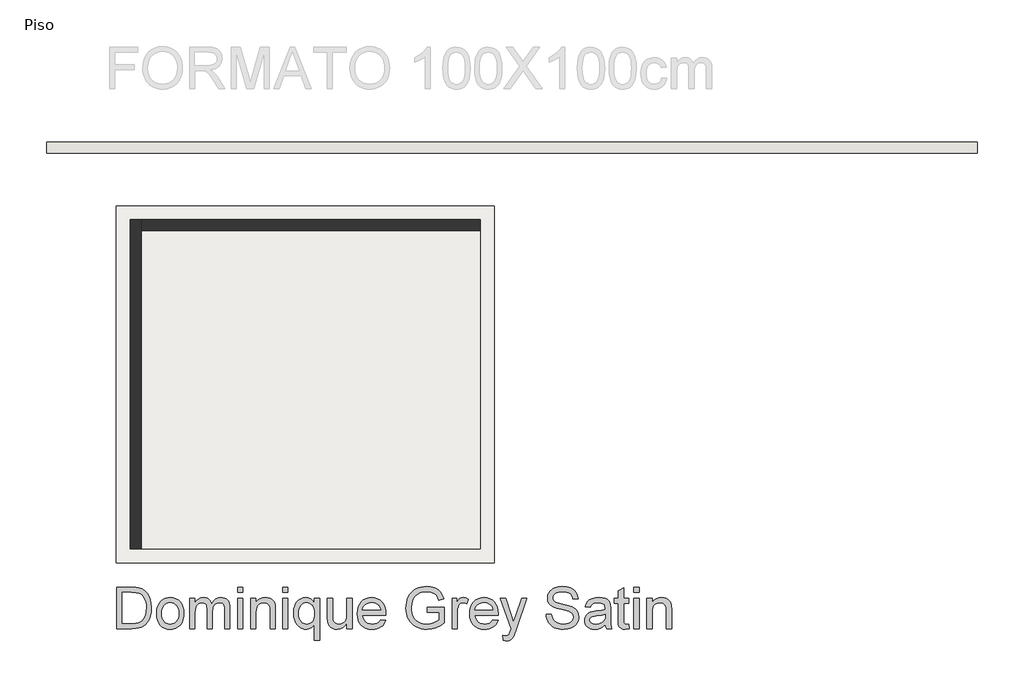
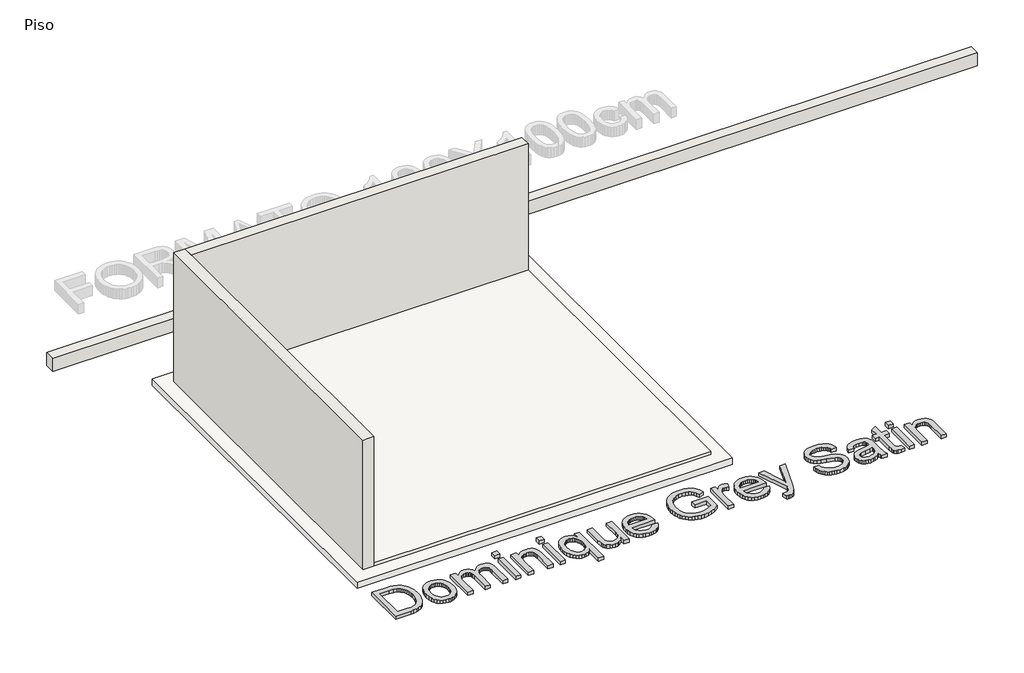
# One storey, part 1 of 2: 3 walls, 2 slabs, 1 proxy.
"""IFC4 building model written with IfcOpenShell, lengths in millimetres."""

from ifc_helpers import new_model, si_unit, frame, origin, origin_with_axes, place, context, project, spatial, polyline, outline, extrude, faceted_brep, element, save

model = new_model("IFC4")

# Units and contexts
model_context = context("Model", 3, world=origin())
ifc_project = project(units=[si_unit("LENGTHUNIT", "METRE", prefix="MILLI")], contexts=[model_context])

# Site, building, storey
site = spatial("IfcSite", under=ifc_project)
building = spatial("IfcBuilding", under=site)
storey = spatial("IfcBuildingStorey", under=building, Name="Piso", Elevation=0.0)

# Proxy
placement = place(None, origin())
element("IfcBuildingElementProxy", 1, Name="600mm Arial", ObjectType="600mm Arial", at=placement, inside=storey, context=model_context, shape_type="SweptSolid", body=[
    extrude(outline(polyline([(92707.9741213, -5134.2532893), (92707.9741213, -4531.5154284), (92915.901025, -4531.5154284), (92978.036294, -4533.6859322), (93023.4697204, -4540.1974435), (93071.5151089, -4556.9360743), (93112.0557048, -4583.3132134), (93134.395339, -4604.8710983), (93153.7367349, -4629.2248864), (93170.0798925, -4656.3745776), (93183.4248119, -4686.320172), (93193.7898871, -4718.7857581), (93201.1935122, -4753.4954243), (93207.1164124, -4829.6469973), (93203.1064986, -4894.3390462), (93191.0767574, -4951.2687849), (93172.756234, -4999.7372378), (93149.8739739, -5039.045429), (93123.533623, -5070.0762753), (93094.8388274, -5093.7126935), (93061.8949948, -5111.2422705), (93022.8075328, -5123.9525935), (92977.5028651, -5131.6781154), (92925.9074152, -5134.2532893), (92707.9741213, -5134.2532893)]), holes=[polyline([(92783.3163539, -5058.9110567), (92916.636789, -5058.9110567), (92971.7823, -5056.18873), (93013.6104829, -5048.0217497), (93045.1747581, -5034.8883624), (93069.5285462, -5017.2668149), (93095.7033501, -4984.654076), (93115.3666428, -4942.439617), (93127.6722955, -4890.439497), (93131.7741797, -4828.4697749), (93129.7646243, -4784.7286057), (93123.7359581, -4746.3585136), (93113.6881812, -4713.3594987), (93099.6212934, -4685.7315608), (93082.675729, -4662.8493007), (93063.9919221, -4644.087319), (93043.5698729, -4629.4456156), (93021.4095812, -4618.9241905), (92978.0730822, -4609.8742934), (92914.5766498, -4606.857661), (92783.3163539, -4606.857661), (92783.3163539, -5058.9110567)])]), origin_with_axes(), (0.0, 0.0, 1.0), 50.0),
    extrude(outline(polyline([(93282.458645, -4912.935481), (93286.5329381, -4855.6102691), (93298.7558174, -4806.2129142), (93319.1272828, -4764.7434163), (93347.6473345, -4731.2017754), (93376.3605242, -4709.7634521), (93408.0535581, -4694.4503641), (93442.7264362, -4685.2625113), (93480.3791584, -4682.1998937), (93521.9452253, -4685.9292974), (93559.5289696, -4697.1175086), (93593.1303914, -4715.7645272), (93622.7494905, -4741.8703533), (93646.9239361, -4774.55207), (93664.1913973, -4812.9267606), (93674.551874, -4856.9944251), (93678.0053662, -4906.7550635), (93676.4786559, -4947.0841272), (93671.8985251, -4982.8698483), (93664.2649737, -5014.1122268), (93653.5780017, -5040.8112626), (93639.9709664, -5063.8728651), (93623.577225, -5084.2029439), (93604.3967775, -5101.8014988), (93582.4296238, -5116.66853), (93558.5310897, -5128.4821405), (93533.5565008, -5136.9204338), (93507.505857, -5141.9834098), (93480.3791584, -5143.6710684), (93438.2060861, -5139.9554603), (93400.2728539, -5128.8086358), (93366.5794617, -5110.230595), (93337.1259094, -5084.221338), (93313.2089812, -5051.222323), (93296.1254611, -5011.6750085), (93285.875349, -4965.5793945), (93282.458645, -4912.935481)]), holes=[polyline([(93357.8008776, -4912.7883282), (93359.9805784, -4949.3328059), (93366.5196809, -4980.975256), (93377.418185, -5007.7156786), (93392.6760907, -5029.5540735), (93411.2357374, -5046.518032), (93432.0394642, -5058.6351452), (93455.0872712, -5065.9054132), (93480.3791584, -5068.3288358), (93505.5422868, -5065.8916176), (93528.4981233, -5058.5799629), (93549.2466679, -5046.3938718), (93567.7879204, -5029.3333443), (93583.0458262, -5007.2788187), (93593.9443303, -4980.1107334), (93600.4834327, -4947.8290883), (93602.6631336, -4910.4338835), (93600.4696372, -4875.0482341), (93593.889148, -4844.2335184), (93582.921666, -4817.9897366), (93567.5671912, -4796.3168886), (93548.9569608, -4779.3529301), (93528.2222118, -4767.2358168), (93505.3629444, -4759.9655489), (93480.3791584, -4757.5421263), (93455.0872712, -4759.9563519), (93432.0394642, -4767.1990286), (93411.2357374, -4779.2701566), (93392.6760907, -4796.1697358), (93377.418185, -4817.9437514), (93366.5196809, -4844.6381886), (93359.9805784, -4876.2530476), (93357.8008776, -4912.7883282)])]), origin_with_axes(), (0.0, 0.0, 1.0), 50.0),
    extrude(outline(polyline([(93762.7653779, -5134.2532893), (93762.7653779, -4691.6176727), (93838.1076105, -4691.6176727), (93838.1076105, -4764.4583078), (93860.7691414, -4730.9994403), (93889.9053954, -4704.7878482), (93924.5230911, -4687.8468823), (93963.6289472, -4682.1998937), (94005.5307065, -4687.9572469), (94023.3637862, -4695.1539384), (94039.1183326, -4705.2293066), (94064.2078847, -4732.8756385), (94080.6154217, -4769.7558085), (94108.0778126, -4731.4500958), (94139.4029645, -4704.0888724), (94174.5908774, -4687.6721383), (94213.6415512, -4682.1998937), (94243.8032762, -4684.4761635), (94270.2769843, -4691.304973), (94293.0626754, -4702.6863223), (94312.1603495, -4718.6202112), (94327.2573068, -4739.2905808), (94338.0408478, -4764.8813721), (94344.5109724, -4795.3925851), (94346.6676806, -4830.8242197), (94346.6676806, -5134.2532893), (94271.325448, -5134.2532893), (94271.325448, -4863.1978353), (94269.5780085, -4825.6186895), (94264.3356901, -4800.2900141), (94254.5132408, -4782.944378), (94239.0254088, -4769.3143501), (94219.1045988, -4760.4851822), (94195.9832154, -4757.5421263), (94174.6322641, -4759.4275215), (94155.166708, -4765.0837072), (94137.5865472, -4774.5106833), (94121.8917816, -4787.7084499), (94108.9837221, -4805.063283), (94099.7636796, -4826.9614588), (94094.231654, -4853.4029772), (94092.3876455, -4884.3878382), (94092.3876455, -5134.2532893), (94017.0454129, -5134.2532893), (94017.0454129, -4854.8101258), (94012.6860113, -4812.2093908), (94007.2367592, -4795.4891541), (93999.6078064, -4781.822338), (93989.49565, -4771.1997453), (93976.5967876, -4763.6121792), (93960.911219, -4759.0596395), (93942.4389443, -4757.5421263), (93913.4130549, -4761.5888282), (93886.6680338, -4773.7289341), (93864.5951141, -4793.6681382), (93849.5855287, -4821.112135), (93840.97709, -4859.1879215), (93838.1076105, -4911.0224947), (93838.1076105, -5134.2532893), (93762.7653779, -5134.2532893)])), origin_with_axes(), (0.0, 0.0, 1.0), 50.0),
    extrude(outline(polyline([(94459.6810295, -4606.857661), (94459.6810295, -4531.5154284), (94535.0232621, -4531.5154284), (94535.0232621, -4606.857661), (94459.6810295, -4606.857661)])), origin_with_axes(), (0.0, 0.0, 1.0), 50.0),
    extrude(outline(polyline([(94459.6810295, -5134.2532893), (94459.6810295, -4691.6176727), (94535.0232621, -4691.6176727), (94535.0232621, -5134.2532893), (94459.6810295, -5134.2532893)])), origin_with_axes(), (0.0, 0.0, 1.0), 50.0),
    extrude(outline(polyline([(94648.0366111, -5134.2532893), (94648.0366111, -4691.6176727), (94723.3788437, -4691.6176727), (94723.3788437, -4753.4218479), (94749.5536476, -4722.2622429), (94780.9891641, -4700.0053822), (94817.6853931, -4686.6512658), (94859.6423347, -4682.1998937), (94896.7800221, -4685.7867431), (94930.7907126, -4696.5472915), (94959.1544144, -4713.1387695), (94979.3511359, -4734.2184078), (94993.0547402, -4759.7310241), (95001.9390904, -4789.6214363), (95005.912216, -4862.4620713), (95005.912216, -5134.2532893), (94930.5699834, -5134.2532893), (94930.5699834, -4872.6156144), (94928.3994796, -4833.6569111), (94921.8879683, -4805.9553968), (94909.8766211, -4786.1081632), (94891.2066099, -4770.7123017), (94867.2758861, -4760.8346701), (94839.4824014, -4757.5421263), (94816.6047398, -4759.3907333), (94795.354956, -4764.9365544), (94775.7330501, -4774.1795895), (94757.739022, -4787.1198387), (94742.706444, -4805.2288299), (94731.9688883, -4829.9780911), (94725.5263548, -4861.3676224), (94723.3788437, -4899.3974236), (94723.3788437, -5134.2532893), (94648.0366111, -5134.2532893)])), origin_with_axes(), (0.0, 0.0, 1.0), 50.0),
    extrude(outline(polyline([(95109.5077858, -4606.857661), (95109.5077858, -4531.5154284), (95184.8500184, -4531.5154284), (95184.8500184, -4606.857661), (95109.5077858, -4606.857661)])), origin_with_axes(), (0.0, 0.0, 1.0), 50.0),
    extrude(outline(polyline([(95109.5077858, -5134.2532893), (95109.5077858, -4691.6176727), (95184.8500184, -4691.6176727), (95184.8500184, -5134.2532893), (95109.5077858, -5134.2532893)])), origin_with_axes(), (0.0, 0.0, 1.0), 50.0),
    extrude(outline(polyline([(95570.9789606, -5303.7733127), (95570.9789606, -5073.9206421), (95550.4879334, -5101.4014272), (95523.1543012, -5123.8054407), (95491.4428732, -5138.7046615), (95457.8184588, -5143.6710684), (95420.6715744, -5139.7485266), (95386.1918344, -5127.9809013), (95354.3792389, -5108.3681924), (95325.2337878, -5080.9104), (95300.8983938, -5046.6191996), (95283.5159695, -5006.5062665), (95273.086515, -4960.5716009), (95269.6100301, -4908.8152027), (95275.12826, -4845.7234405), (95291.6829498, -4789.4742835), (95303.9610114, -4764.6606429), (95318.7222765, -4743.0475757), (95335.966745, -4724.6350818), (95355.694417, -4709.4231613), (95377.1695285, -4697.5129817), (95399.6563154, -4689.0057106), (95423.1547778, -4683.9013479), (95447.6649158, -4682.1998937), (95484.7842091, -4687.4790003), (95517.7096477, -4703.3163202), (95546.4412315, -4729.7118533), (95570.9789606, -4766.6655998), (95570.9789606, -4691.6176727), (95646.3211932, -4691.6176727), (95646.3211932, -5303.7733127), (95570.9789606, -5303.7733127)]), holes=[polyline([(95344.9522627, -4912.935481), (95347.0721827, -4949.3557986), (95353.4319427, -4980.9200737), (95364.0315427, -5007.6283066), (95378.8709827, -5029.4804971), (95396.6718727, -5046.4766453), (95416.1558229, -5058.6167511), (95437.3228332, -5065.9008146), (95460.1729036, -5068.3288358), (95482.0480868, -5066.0203763), (95502.3505744, -5059.0949977), (95521.0803664, -5047.5527001), (95538.237463, -5031.3934835), (95552.5618682, -5010.5161803), (95562.7935862, -4984.8196229), (95568.932617, -4954.3038114), (95570.9789606, -4918.9687458), (95568.8222524, -4881.2838339), (95562.3521278, -4848.574526), (95551.5685868, -4820.8408221), (95536.4716294, -4798.0827221), (95518.4684043, -4780.3462114), (95498.96606, -4767.6772752), (95477.9645966, -4760.0759135), (95455.4640141, -4757.5421263), (95433.239343, -4759.9011696), (95412.7713085, -4766.9782994), (95394.0599106, -4778.7735159), (95377.1051491, -4795.286819), (95363.0382613, -4816.7941201), (95352.9904843, -4843.5713308), (95346.9618181, -4875.6184511), (95344.9522627, -4912.935481)])]), origin_with_axes(), (0.0, 0.0, 1.0), 50.0),
    extrude(outline(polyline([(96041.8679144, -5134.2532893), (96041.8679144, -5058.1752927), (96014.6078585, -5095.5796946), (95982.8596424, -5122.2971245), (95946.6232658, -5138.3275824), (95905.898729, -5143.6710684), (95869.2025, -5139.9186721), (95835.0446567, -5128.661483), (95806.3866493, -5111.7389112), (95786.1899277, -5090.9903667), (95772.596688, -5065.79045), (95763.749126, -5035.5137618), (95759.3345421, -4965.4690299), (95759.3345421, -4691.6176727), (95834.6767747, -4691.6176727), (95834.6767747, -4930.0052056), (95835.8172089, -4977.6827122), (95839.2385114, -5006.8189662), (95850.219789, -5032.4419472), (95869.0369531, -5051.9212988), (95894.4392048, -5064.2269516), (95925.1757455, -5068.3288358), (95957.6781198, -5064.1349811), (95988.0835667, -5051.5534168), (96013.1547247, -5031.7429714), (96029.6542321, -5005.862473), (96038.8144938, -4970.4170428), (96041.8679144, -4921.9118017), (96041.8679144, -4691.6176727), (96117.210147, -4691.6176727), (96117.210147, -5134.2532893), (96041.8679144, -5134.2532893)])), origin_with_axes(), (0.0, 0.0, 1.0), 50.0),
    extrude(outline(polyline([(96530.7095096, -5002.4043823), (96604.5802142, -5011.8221613), (96593.2540473, -5041.4090708), (96577.9639519, -5067.4827072), (96558.7099279, -5090.0430706), (96535.4919755, -5109.0901609), (96508.5492179, -5124.2193079), (96478.1207784, -5135.0258415), (96444.2066569, -5141.5097617), (96406.8068536, -5143.6710684), (96360.0582491, -5139.9416647), (96318.4048102, -5128.7534535), (96281.8465369, -5110.1064349), (96250.3834293, -5084.0006088), (96225.082345, -5051.1625422), (96207.010142, -5012.318802), (96196.1668202, -4967.4693883), (96192.5523796, -4916.614301), (96196.2036084, -4864.0347668), (96207.1572948, -4817.6908325), (96225.4134388, -4777.582498), (96250.9720404, -4743.7097633), (96282.3523746, -4716.7991953), (96318.0737164, -4697.5773611), (96358.1360656, -4686.0442605), (96402.5394225, -4682.1998937), (96445.512638, -4686.0350635), (96484.3747723, -4697.5405729), (96519.1258253, -4716.7164219), (96549.7657969, -4743.5626105), (96574.7771741, -4777.3617688), (96592.6424435, -4817.3965269), (96603.3616051, -4863.6668848), (96606.934659, -4916.1728426), (96606.4932006, -4936.4799287), (96267.8946122, -4936.4799287), (96272.2586124, -4966.5450848), (96280.936029, -4992.8762386), (96293.9268619, -5015.4733901), (96311.2311113, -5034.3365394), (96331.8922838, -5049.2081691), (96354.9538864, -5059.8307617), (96380.415919, -5066.2043173), (96408.2783816, -5068.3288358), (96448.3775191, -5064.3924984), (96482.1490862, -5052.5834864), (96509.5930831, -5032.1660357), (96530.7095096, -5002.4043823)]), holes=[polyline([(96267.8946122, -4861.1376961), (96531.5924264, -4861.1376961), (96521.4020951, -4821.3328642), (96512.6373066, -4805.6794853), (96501.4261028, -4792.8587978), (96480.8798933, -4777.407754), (96457.5009925, -4766.3712942), (96431.2894004, -4759.7494182), (96402.2451169, -4757.5421263), (96375.7530147, -4759.3033613), (96351.4590074, -4764.5870665), (96329.3630951, -4773.3932417), (96309.4652777, -4785.7218871), (96292.7680336, -4801.0027855), (96280.2738414, -4818.6657198), (96271.9827009, -4838.71069), (96267.8946122, -4861.1376961)])]), origin_with_axes(), (0.0, 0.0, 1.0), 50.0),
    extrude(outline(polyline([(97209.6725199, -4898.8088124), (97209.6725199, -4823.4665798), (97454.5347759, -4823.4665798), (97454.5347759, -5048.7575137), (97395.0298631, -5090.1442381), (97333.6487523, -5119.8323151), (97270.538596, -5137.7113801), (97205.8465471, -5143.6710684), (97162.5698289, -5141.3028281), (97121.3256587, -5134.198107), (97082.1140366, -5122.3569053), (97044.9349624, -5105.7792229), (97010.9886513, -5084.7133802), (96981.4753183, -5059.4076974), (96956.3949632, -5029.8621747), (96935.7475863, -4996.0768119), (96919.6205593, -4959.1322626), (96908.1012543, -4920.1091799), (96901.1896713, -4879.007564), (96898.8858104, -4835.8274148), (96901.1804743, -4792.6426671), (96908.0644661, -4750.9386445), (96919.5377859, -4710.7153468), (96935.6004335, -4671.9727742), (96955.9673004, -4636.4123808), (96980.3532782, -4605.735621), (97008.7583667, -4579.9424946), (97041.1825661, -4559.0330017), (97076.9223019, -4542.873785), (97115.2739999, -4531.3314874), (97156.2376601, -4524.4061089), (97199.8132824, -4522.0976494), (97261.874975, -4527.4503324), (97317.6826737, -4543.5083815), (97342.6020803, -4555.2622112), (97364.6795985, -4569.1129683), (97383.9152284, -4585.0606528), (97400.3089698, -4603.1052647), (97426.6677147, -4647.1223454), (97445.8527608, -4702.8012854), (97376.3966401, -4722.3726075), (97360.890414, -4682.6597462), (97342.0364617, -4652.6957576), (97317.0940625, -4630.1078031), (97283.3224953, -4612.5230438), (97243.0578109, -4601.2106724), (97198.63606, -4597.439882), (97146.63594, -4601.504978), (97102.1774009, -4613.7002662), (97065.4259896, -4632.4990361), (97036.5472529, -4656.3745776), (97014.3823627, -4684.0944859), (96997.7724907, -4714.4263564), (96980.1141549, -4771.3009129), (96974.228043, -4832.7372061), (96975.9984751, -4870.3577386), (96981.3097714, -4904.7868948), (96990.1619319, -4936.0246748), (97002.5549566, -4964.0710784), (97018.3278971, -4988.8203396), (97037.3198051, -5010.1666924), (97059.5306806, -5028.1101367), (97084.9605235, -5042.6506725), (97112.4183159, -5053.884869), (97140.7130399, -5061.909295), (97169.8446954, -5066.7239506), (97199.8132824, -5068.3288358), (97251.9973434, -5063.4911876), (97302.8938175, -5048.9782429), (97347.0948392, -5028.9838564), (97379.1925433, -5007.701883), (97379.1925433, -4898.8088124), (97209.6725199, -4898.8088124)])), origin_with_axes(), (0.0, 0.0, 1.0), 50.0),
    extrude(outline(polyline([(97567.5481248, -5134.2532893), (97567.5481248, -4691.6176727), (97633.4725783, -4691.6176727), (97633.4725783, -4757.1006679), (97657.8263664, -4719.135246), (97680.2671681, -4696.7680207), (97702.7815462, -4685.8419254), (97727.3560635, -4682.1998937), (97764.880027, -4688.0124292), (97802.9926017, -4705.4500358), (97777.8294732, -4772.9931701), (97751.3419696, -4761.4048872), (97724.8544659, -4757.5421263), (97702.3584819, -4761.2577344), (97682.2537309, -4772.4045589), (97666.0117408, -4790.136471), (97655.1040396, -4813.6073423), (97645.943778, -4855.6930426), (97642.8903574, -4901.6047156), (97642.8903574, -5134.2532893), (97567.5481248, -5134.2532893)])), origin_with_axes(), (0.0, 0.0, 1.0), 50.0),
    extrude(outline(polyline([(98159.9852898, -5002.4043823), (98233.8559944, -5011.8221613), (98222.5298275, -5041.4090708), (98207.2397321, -5067.4827072), (98187.9857082, -5090.0430706), (98164.7677558, -5109.0901609), (98137.8249981, -5124.2193079), (98107.3965586, -5135.0258415), (98073.4824372, -5141.5097617), (98036.0826338, -5143.6710684), (97989.3340293, -5139.9416647), (97947.6805904, -5128.7534535), (97911.1223171, -5110.1064349), (97879.6592095, -5084.0006088), (97854.3581253, -5051.1625422), (97836.2859223, -5012.318802), (97825.4426005, -4967.4693883), (97821.8281599, -4916.614301), (97825.4793887, -4864.0347668), (97836.4330751, -4817.6908325), (97854.6892191, -4777.582498), (97880.2478207, -4743.7097633), (97911.6281549, -4716.7991953), (97947.3494966, -4697.5773611), (97987.4118459, -4686.0442605), (98031.8152027, -4682.1998937), (98074.7884183, -4686.0350635), (98113.6505525, -4697.5405729), (98148.4016055, -4716.7164219), (98179.0415772, -4743.5626105), (98204.0529543, -4777.3617688), (98221.9182237, -4817.3965269), (98232.6373853, -4863.6668848), (98236.2104392, -4916.1728426), (98235.7689808, -4936.4799287), (97897.1703925, -4936.4799287), (97901.5343926, -4966.5450848), (97910.2118092, -4992.8762386), (97923.2026421, -5015.4733901), (97940.5068915, -5034.3365394), (97961.168064, -5049.2081691), (97984.2296666, -5059.8307617), (98009.6916992, -5066.2043173), (98037.5541618, -5068.3288358), (98077.6532993, -5064.3924984), (98111.4248665, -5052.5834864), (98138.8688633, -5032.1660357), (98159.9852898, -5002.4043823)]), holes=[polyline([(97897.1703925, -4861.1376961), (98160.8682066, -4861.1376961), (98150.6778753, -4821.3328642), (98141.9130868, -4805.6794853), (98130.701883, -4792.8587978), (98110.1556736, -4777.407754), (98086.7767728, -4766.3712942), (98060.5651806, -4759.7494182), (98031.5208971, -4757.5421263), (98005.0287949, -4759.3033613), (97980.7347877, -4764.5870665), (97958.6388753, -4773.3932417), (97938.7410579, -4785.7218871), (97922.0438139, -4801.0027855), (97909.5496216, -4818.6657198), (97901.2584811, -4838.71069), (97897.1703925, -4861.1376961)])]), origin_with_axes(), (0.0, 0.0, 1.0), 50.0),
    extrude(outline(polyline([(98311.5526718, -5303.7733127), (98302.1348928, -5231.2269833), (98340.3946203, -5237.8488592), (98360.5177654, -5235.7703259), (98376.1527502, -5229.5347261), (98388.3296442, -5219.5835181), (98398.0785171, -5206.3581604), (98418.6799088, -5150.8815555), (98424.5660207, -5132.6346086), (98264.4637764, -4691.6176727), (98343.9262874, -4691.6176727), (98428.8334519, -4937.3628455), (98458.4111643, -5035.6609146), (98487.9888767, -4948.8407638), (98575.250486, -4691.6176727), (98654.1243857, -4691.6176727), (98500.0554062, -5144.8482908), (98460.0298451, -5243.1463599), (98439.538818, -5274.5266941), (98416.3254641, -5296.26852), (98389.3597138, -5308.9604488), (98357.6114976, -5313.1910918), (98335.7960953, -5310.836647), (98311.5526718, -5303.7733127)])), origin_with_axes(), (0.0, 0.0, 1.0), 50.0),
    extrude(outline(polyline([(98933.1260909, -4927.0621497), (99008.4683235, -4927.0621497), (99017.1135504, -4968.8719384), (99032.7485352, -5002.4779587), (99057.1391115, -5029.1494033), (99092.0511128, -5050.1554652), (99134.7254242, -5063.7854932), (99182.4029308, -5068.3288358), (99224.3782665, -5064.8891391), (99261.1296778, -5054.5700492), (99290.9097253, -5038.2360886), (99311.9709695, -5016.7517801), (99324.4973515, -4992.0852923), (99328.6728121, -4966.2047939), (99325.5458151, -4940.9864832), (99316.1648243, -4919.189475), (99297.1085369, -4900.5930401), (99264.9556505, -4884.9764494), (99155.2532396, -4856.2080774), (99083.240339, -4837.1701841), (99037.1631191, -4819.0519959), (98999.6575497, -4793.7049264), (98973.0780756, -4762.9867798), (98957.2407557, -4727.5597437), (98951.961649, -4688.0860056), (98953.5941254, -4665.6498024), (98958.4915544, -4643.9585603), (98966.6539362, -4623.0122792), (98978.0812707, -4602.8109591), (98992.6447992, -4584.177736), (99010.215763, -4567.935746), (99030.7941621, -4554.0849888), (99054.3799965, -4542.6254647), (99107.391792, -4527.2296032), (99166.0689702, -4522.0976494), (99229.638979, -4527.4687265), (99285.2627367, -4543.5819579), (99309.5981306, -4555.584108), (99330.9536805, -4570.1062497), (99349.3293861, -4587.1483832), (99364.7252476, -4606.7105083), (99377.0217033, -4628.2224079), (99386.0991915, -4651.1138651), (99391.9577123, -4675.3848797), (99394.5972656, -4701.0354518), (99319.255033, -4701.0354518), (99314.2150497, -4676.9943634), (99305.42267, -4656.080272), (99292.877894, -4638.2931775), (99276.5807216, -4623.63308), (99256.2276502, -4612.1735559), (99231.5151772, -4603.9881815), (99202.4433025, -4599.0769569), (99169.0120262, -4597.439882), (99134.5138921, -4599.0585628), (99105.0373472, -4603.9146051), (99080.5823916, -4612.008009), (99061.1490252, -4623.3387744), (99046.3417749, -4636.9596053), (99035.7651675, -4651.9232055), (99029.4192031, -4668.2295749), (99027.3038816, -4685.8787136), (99028.8030008, -4701.063043), (99033.3003582, -4714.8310266), (99040.7959538, -4727.1826646), (99051.2897877, -4738.1179569), (99067.8076893, -4748.4738351), (99093.8169464, -4758.9400779), (99174.3095269, -4780.2036572), (99257.3772814, -4800.4003787), (99307.629962, -4818.0219263), (99350.5801849, -4845.3555585), (99367.1854585, -4861.4228047), (99380.5441734, -4879.0903375), (99390.8126796, -4898.2661865), (99398.1473269, -4918.8583812), (99404.0150447, -4964.2918076), (99402.3273861, -4987.8592479), (99397.2644101, -5010.7369095), (99388.8261168, -5032.9247923), (99377.0125063, -5054.4228964), (99362.030512, -5074.3988887), (99344.0870677, -5092.0204363), (99323.1821733, -5107.2875391), (99299.3158289, -5120.2001971), (99273.1824116, -5130.4687033), (99245.4762989, -5137.8033506), (99185.3459868, -5143.6710684), (99146.8057493, -5142.0891758), (99111.5304644, -5137.3434981), (99079.5201323, -5129.4340352), (99050.7747529, -5118.3607871), (99025.1195823, -5104.1053598), (99002.3798765, -5086.6493592), (98982.5556355, -5065.9927851), (98965.6468593, -5042.1356377), (98952.0260284, -5015.8504692), (98942.0656234, -4987.9098317), (98935.7656442, -4958.3137251), (98933.1260909, -4927.0621497)])), origin_with_axes(), (0.0, 0.0, 1.0), 50.0),
    extrude(outline(polyline([(99790.1439868, -5077.7466149), (99754.1467336, -5108.6119143), (99717.0826226, -5128.8086358), (99678.1055252, -5139.9554603), (99636.3693129, -5143.6710684), (99602.8230734, -5141.4361853), (99573.4063094, -5134.7315359), (99548.1190207, -5123.5571203), (99526.9612075, -5107.9129385), (99510.2547664, -5088.7922718), (99498.3215942, -5067.1884016), (99491.1616908, -5043.101328), (99488.7750564, -5016.5310509), (99492.3802999, -4985.2978695), (99503.1960306, -4956.9341677), (99519.8794791, -4932.653956), (99541.0878761, -4913.671245), (99566.0118813, -4899.3238472), (99593.8421542, -4888.949575), (99659.0308438, -4877.6188095), (99736.0653336, -4865.6994329), (99789.7025285, -4851.719917), (99790.1439868, -4834.9444981), (99784.9568507, -4801.3200837), (99778.4729305, -4788.8672782), (99769.3954423, -4779.3207404), (99753.7052752, -4769.7925967), (99734.5938056, -4762.9867798), (99686.1069586, -4757.5421263), (99641.2253552, -4761.1657639), (99609.8818092, -4772.0366769), (99588.5078653, -4792.1414279), (99573.5350681, -4823.4665798), (99498.1928355, -4814.0488007), (99511.2710404, -4772.8460173), (99530.7871802, -4740.4724017), (99558.5622709, -4715.7139434), (99596.4173282, -4697.3566319), (99642.7152773, -4685.9890782), (99695.8190433, -4682.1998937), (99746.7523055, -4685.5476198), (99787.1273545, -4695.5907983), (99817.5695896, -4710.6923542), (99838.7044102, -4729.2152126), (99852.7207142, -4752.1158668), (99861.8073995, -4780.35081), (99865.4862195, -4846.2752635), (99865.4862195, -4940.0115959), (99869.3121922, -5070.9040098), (99874.9775749, -5103.2592312), (99884.3217776, -5134.2532893), (99808.979545, -5134.2532893), (99796.9130156, -5108.0600913), (99790.1439868, -5077.7466149)]), holes=[polyline([(99790.1439868, -4927.0621497), (99739.5234243, -4939.6069257), (99668.5957756, -4950.1651389), (99603.7749681, -4962.3788212), (99586.9075786, -4970.7297425), (99574.4179849, -4982.2444489), (99566.692463, -4996.0400237), (99564.117289, -5011.2335501), (99569.7274894, -5033.6375637), (99586.5580907, -5051.9948752), (99614.2412109, -5064.2453457), (99652.4089679, -5068.3288358), (99692.8759873, -5063.8222814), (99728.6341173, -5050.302618), (99757.6232185, -5030.381808), (99777.7831518, -5006.6718134), (99786.7226843, -4982.2444489), (99789.7025285, -4948.3993054), (99790.1439868, -4927.0621497)])]), origin_with_axes(), (0.0, 0.0, 1.0), 50.0),
    extrude(outline(polyline([(100129.1840336, -5071.4190446), (100138.6018127, -5136.4605813), (100082.242291, -5143.6710684), (100046.0794909, -5140.5440715), (100019.1137406, -5131.1630806), (100000.0574533, -5116.7053182), (99987.6230419, -5098.3480066), (99980.7804367, -5066.8205196), (99978.4995684, -5012.8522309), (99978.4995684, -4766.9599053), (99921.9928939, -4766.9599053), (99921.9928939, -4691.6176727), (99978.4995684, -4691.6176727), (99978.4995684, -4584.0489773), (100053.841801, -4539.7559851), (100053.841801, -4691.6176727), (100129.1840336, -4691.6176727), (100129.1840336, -4766.9599053), (100053.841801, -4766.9599053), (100053.841801, -5010.644939), (100057.8149265, -5049.4932776), (100070.6907964, -5063.2520643), (100081.5617093, -5067.0596429), (100096.3689596, -5068.3288358), (100129.1840336, -5071.4190446)])), origin_with_axes(), (0.0, 0.0, 1.0), 50.0),
    extrude(outline(polyline([(100204.5262662, -4606.857661), (100204.5262662, -4531.5154284), (100279.8684988, -4531.5154284), (100279.8684988, -4606.857661), (100204.5262662, -4606.857661)])), origin_with_axes(), (0.0, 0.0, 1.0), 50.0),
    extrude(outline(polyline([(100204.5262662, -5134.2532893), (100204.5262662, -4691.6176727), (100279.8684988, -4691.6176727), (100279.8684988, -5134.2532893), (100204.5262662, -5134.2532893)])), origin_with_axes(), (0.0, 0.0, 1.0), 50.0),
    extrude(outline(polyline([(100392.8818477, -5134.2532893), (100392.8818477, -4691.6176727), (100468.2240804, -4691.6176727), (100468.2240804, -4753.4218479), (100494.3988843, -4722.2622429), (100525.8344008, -4700.0053822), (100562.5306298, -4686.6512658), (100604.4875714, -4682.1998937), (100641.6252588, -4685.7867431), (100675.6359492, -4696.5472915), (100703.9996511, -4713.1387695), (100724.1963726, -4734.2184078), (100737.8999769, -4759.7310241), (100746.7843271, -4789.6214363), (100750.7574527, -4862.4620713), (100750.7574527, -5134.2532893), (100675.41522, -5134.2532893), (100675.41522, -4872.6156144), (100673.2447163, -4833.6569111), (100666.733205, -4805.9553968), (100654.7218578, -4786.1081632), (100636.0518466, -4770.7123017), (100612.1211228, -4760.8346701), (100584.327638, -4757.5421263), (100561.4499765, -4759.3907333), (100540.2001927, -4764.9365544), (100520.5782868, -4774.1795895), (100502.5842587, -4787.1198387), (100487.5516807, -4805.2288299), (100476.8141249, -4829.9780911), (100470.3715915, -4861.3676224), (100468.2240804, -4899.3974236), (100468.2240804, -5134.2532893), (100392.8818477, -5134.2532893)])), origin_with_axes(), (0.0, 0.0, 1.0), 50.0),
])

# Slabs
element("IfcSlab", 2, ObjectType="5cm - Porcelanato Dominique Grey Satin  - Acetinado 100x100", at=placement, inside=storey, context=model_context, shape_type="SweptSolid", body=[
    extrude(outline(polyline([(97977.6643482, 641.8803419), (97977.6643482, -3978.7196581), (93057.0643482, -3978.7196581), (93057.0643482, 641.8803419), (97977.6643482, 641.8803419)])), origin_with_axes(), (0.0, 0.0, 1.0), 50.0),
])
element("IfcSlab", 3, ObjectType="CO02 - Concreto Estrutural Simples", at=placement, inside=storey, context=model_context, shape_type="SweptSolid", body=[
    extrude(outline(polyline([(98177.6643482, 1000.6803419), (98177.6643482, -4178.7196581), (92698.2643482, -4178.7196581), (92698.2643482, 1000.6803419), (98177.6643482, 1000.6803419)])), frame((0.0, 0.0, -100.0), z_axis=(0.0, 0.0, 1.0), x_axis=(1.0, 0.0, 0.0)), (0.0, 0.0, 1.0), 100.0),
])

# Walls
element("IfcWall", 4, ObjectType="CO01 - Bloco de Concreto 14cm / Pintura Branca Simples", at=placement, inside=storey, context=model_context, shape_type="SweptSolid", body=[
    extrude(outline(polyline([(105186.699165, 1765.7486968), (91686.699165, 1765.7486968), (91686.699165, 1924.5486968), (105186.699165, 1924.5486968), (105186.699165, 1765.7486968)])), origin_with_axes(), (0.0, 0.0, 1.0), 200.0),
])
element("IfcWall", 5, ObjectType="CO01 - Bloco de Concreto 14cm / Pintura Branca Simples", at=placement, inside=storey, context=model_context, shape_type="Brep", body=[
    faceted_brep([(93057.0643482, -3978.7196581, 0.0), (93057.0643482, 641.8803419, 0.0), (93057.0643482, 800.6803419, 0.0), (93057.0643482, 800.6803419, 2000.0), (93057.0643482, 641.8803419, 2000.0), (93057.0643482, -3978.7196581, 2000.0), (92898.2643482, -3978.7196581, 0.0), (92898.2643482, -3978.7196581, 2000.0), (92898.2643482, 800.6803419, 2000.0), (92898.2643482, 800.6803419, 0.0)], [[[0, 1, 2, 3, 4, 5]], [[6, 7, 8, 9]], [[2, 1, 0, 6, 9]], [[5, 4, 3, 8, 7]], [[0, 5, 7, 6]], [[3, 2, 9, 8]]]),
])
element("IfcWall", 6, ObjectType="CO01 - Bloco de Concreto 14cm / Pintura Branca Simples", at=placement, inside=storey, context=model_context, shape_type="SweptSolid", body=[
    extrude(outline(polyline([(97977.6643482, 641.8803419), (93057.0643482, 641.8803419), (93057.0643482, 800.6803419), (97977.6643482, 800.6803419), (97977.6643482, 641.8803419)])), origin_with_axes(), (0.0, 0.0, 1.0), 2000.0),
])

save(model, "model.ifc")
